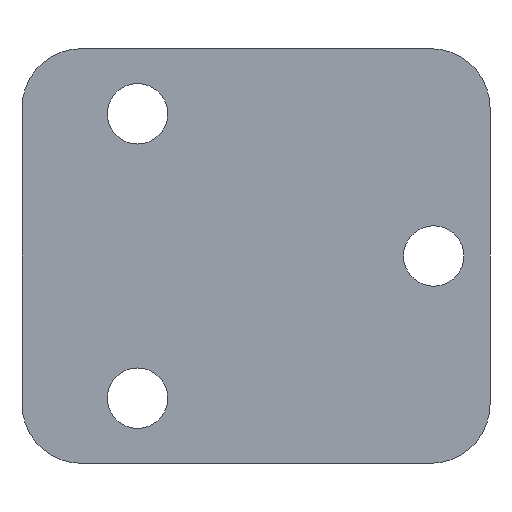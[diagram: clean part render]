
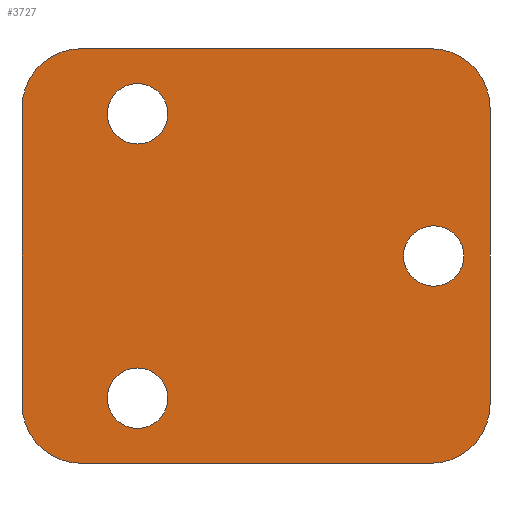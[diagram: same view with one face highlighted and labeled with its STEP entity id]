
A CAD part, front view. The second image highlights one B-rep face of the part: STEP entity #3727.
In plain terms, the highlighted planar face has unit normal (0, -1, 0).
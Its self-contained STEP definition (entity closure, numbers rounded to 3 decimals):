
#15=CARTESIAN_POINT('',(14.75,0.,12.5));
#16=DIRECTION('',(0.,-1.,0.));
#17=DIRECTION('',(1.,0.,0.));
#18=AXIS2_PLACEMENT_3D('',#15,#16,#17);
#20=DIRECTION('',(0.,0.,-1.));
#21=VECTOR('',#20,25.);
#22=CARTESIAN_POINT('',(19.75,0.,12.5));
#23=LINE('',#22,#21);
#24=CARTESIAN_POINT('',(14.75,0.,-12.5));
#25=DIRECTION('',(0.,-1.,0.));
#26=DIRECTION('',(0.,0.,-1.));
#27=AXIS2_PLACEMENT_3D('',#24,#25,#26);
#29=DIRECTION('',(-1.,0.,0.));
#30=VECTOR('',#29,29.5);
#31=CARTESIAN_POINT('',(14.75,0.,-17.5));
#32=LINE('',#31,#30);
#33=CARTESIAN_POINT('',(-14.75,0.,-12.5));
#34=DIRECTION('',(0.,-1.,0.));
#35=DIRECTION('',(-1.,0.,0.));
#36=AXIS2_PLACEMENT_3D('',#33,#34,#35);
#38=DIRECTION('',(0.,0.,1.));
#39=VECTOR('',#38,25.);
#40=CARTESIAN_POINT('',(-19.75,0.,-12.5));
#41=LINE('',#40,#39);
#42=CARTESIAN_POINT('',(-14.75,0.,12.5));
#43=DIRECTION('',(0.,-1.,0.));
#44=DIRECTION('',(0.,0.,1.));
#45=AXIS2_PLACEMENT_3D('',#42,#43,#44);
#47=DIRECTION('',(1.,0.,0.));
#48=VECTOR('',#47,29.5);
#49=CARTESIAN_POINT('',(-14.75,0.,17.5));
#50=LINE('',#49,#48);
#51=CARTESIAN_POINT('',(15.,0.,0.));
#52=DIRECTION('',(0.,-1.,0.));
#53=DIRECTION('',(1.,0.,0.));
#54=AXIS2_PLACEMENT_3D('',#51,#52,#53);
#56=CARTESIAN_POINT('',(15.,0.,0.));
#57=DIRECTION('',(0.,-1.,0.));
#58=DIRECTION('',(-1.,0.,0.));
#59=AXIS2_PLACEMENT_3D('',#56,#57,#58);
#61=CARTESIAN_POINT('',(-10.,0.,12.));
#62=DIRECTION('',(0.,-1.,0.));
#63=DIRECTION('',(1.,0.,0.));
#64=AXIS2_PLACEMENT_3D('',#61,#62,#63);
#66=CARTESIAN_POINT('',(-10.,0.,12.));
#67=DIRECTION('',(0.,-1.,0.));
#68=DIRECTION('',(-1.,0.,0.));
#69=AXIS2_PLACEMENT_3D('',#66,#67,#68);
#71=CARTESIAN_POINT('',(-10.,0.,-12.));
#72=DIRECTION('',(0.,1.,0.));
#73=DIRECTION('',(1.,0.,0.));
#74=AXIS2_PLACEMENT_3D('',#71,#72,#73);
#76=CARTESIAN_POINT('',(-10.,0.,-12.));
#77=DIRECTION('',(0.,1.,0.));
#78=DIRECTION('',(-1.,0.,0.));
#79=AXIS2_PLACEMENT_3D('',#76,#77,#78);
#3475=CARTESIAN_POINT('',(19.75,0.,12.5));
#3476=CARTESIAN_POINT('',(14.75,0.,17.5));
#3477=VERTEX_POINT('',#3475);
#3478=VERTEX_POINT('',#3476);
#3483=CARTESIAN_POINT('',(14.75,0.,-17.5));
#3484=CARTESIAN_POINT('',(19.75,0.,-12.5));
#3485=VERTEX_POINT('',#3483);
#3486=VERTEX_POINT('',#3484);
#3491=CARTESIAN_POINT('',(-19.75,0.,-12.5));
#3492=CARTESIAN_POINT('',(-14.75,0.,-17.5));
#3493=VERTEX_POINT('',#3491);
#3494=VERTEX_POINT('',#3492);
#3499=CARTESIAN_POINT('',(-14.75,0.,17.5));
#3500=CARTESIAN_POINT('',(-19.75,0.,12.5));
#3501=VERTEX_POINT('',#3499);
#3502=VERTEX_POINT('',#3500);
#3507=CARTESIAN_POINT('',(17.55,0.,0.));
#3508=CARTESIAN_POINT('',(12.45,0.,0.));
#3509=VERTEX_POINT('',#3507);
#3510=VERTEX_POINT('',#3508);
#3515=CARTESIAN_POINT('',(-7.45,0.,12.));
#3516=CARTESIAN_POINT('',(-12.55,0.,12.));
#3517=VERTEX_POINT('',#3515);
#3518=VERTEX_POINT('',#3516);
#3524=CARTESIAN_POINT('',(-7.45,0.,-12.));
#3526=VERTEX_POINT('',#3524);
#3528=CARTESIAN_POINT('',(-12.55,0.,-12.));
#3530=VERTEX_POINT('',#3528);
#3686=CARTESIAN_POINT('',(0.,0.,0.));
#3687=DIRECTION('',(0.,1.,0.));
#3688=DIRECTION('',(1.,0.,0.));
#3689=AXIS2_PLACEMENT_3D('',#3686,#3687,#3688);
#3690=PLANE('',#3689);
#3692=ORIENTED_EDGE('',*,*,#3691,.F.);
#3694=ORIENTED_EDGE('',*,*,#3693,.T.);
#3696=ORIENTED_EDGE('',*,*,#3695,.F.);
#3698=ORIENTED_EDGE('',*,*,#3697,.T.);
#3700=ORIENTED_EDGE('',*,*,#3699,.F.);
#3702=ORIENTED_EDGE('',*,*,#3701,.T.);
#3704=ORIENTED_EDGE('',*,*,#3703,.F.);
#3706=ORIENTED_EDGE('',*,*,#3705,.T.);
#3707=EDGE_LOOP('',(#3692,#3694,#3696,#3698,#3700,#3702,#3704,#3706));
#3708=FACE_OUTER_BOUND('',#3707,.F.);
#3710=ORIENTED_EDGE('',*,*,#3709,.T.);
#3712=ORIENTED_EDGE('',*,*,#3711,.T.);
#3713=EDGE_LOOP('',(#3710,#3712));
#3714=FACE_BOUND('',#3713,.F.);
#3716=ORIENTED_EDGE('',*,*,#3715,.T.);
#3718=ORIENTED_EDGE('',*,*,#3717,.T.);
#3719=EDGE_LOOP('',(#3716,#3718));
#3720=FACE_BOUND('',#3719,.F.);
#3722=ORIENTED_EDGE('',*,*,#3721,.F.);
#3724=ORIENTED_EDGE('',*,*,#3723,.F.);
#3725=EDGE_LOOP('',(#3722,#3724));
#3726=FACE_BOUND('',#3725,.F.);
#3727=ADVANCED_FACE('',(#3708,#3714,#3720,#3726),#3690,.F.);
#19=CIRCLE('',#18,5.);
#28=CIRCLE('',#27,5.);
#37=CIRCLE('',#36,5.);
#46=CIRCLE('',#45,5.);
#55=CIRCLE('',#54,2.55);
#60=CIRCLE('',#59,2.55);
#65=CIRCLE('',#64,2.55);
#70=CIRCLE('',#69,2.55);
#75=CIRCLE('',#74,2.55);
#80=CIRCLE('',#79,2.55);
#3691=EDGE_CURVE('',#3477,#3478,#19,.T.);
#3693=EDGE_CURVE('',#3477,#3486,#23,.T.);
#3695=EDGE_CURVE('',#3485,#3486,#28,.T.);
#3697=EDGE_CURVE('',#3485,#3494,#32,.T.);
#3699=EDGE_CURVE('',#3493,#3494,#37,.T.);
#3701=EDGE_CURVE('',#3493,#3502,#41,.T.);
#3703=EDGE_CURVE('',#3501,#3502,#46,.T.);
#3705=EDGE_CURVE('',#3501,#3478,#50,.T.);
#3709=EDGE_CURVE('',#3509,#3510,#55,.T.);
#3711=EDGE_CURVE('',#3510,#3509,#60,.T.);
#3715=EDGE_CURVE('',#3517,#3518,#65,.T.);
#3717=EDGE_CURVE('',#3518,#3517,#70,.T.);
#3721=EDGE_CURVE('',#3526,#3530,#75,.T.);
#3723=EDGE_CURVE('',#3530,#3526,#80,.T.);
